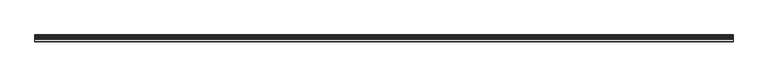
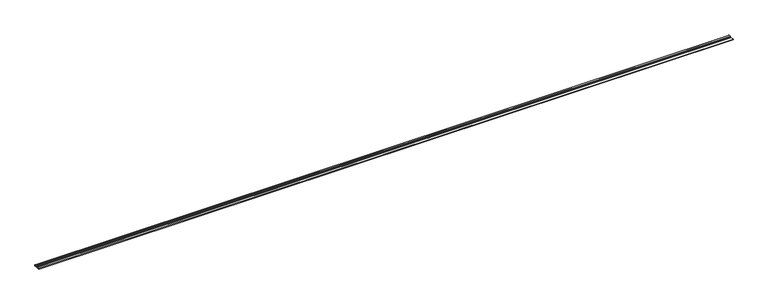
"""IFC4 building model written with IfcOpenShell, lengths in millimetres: slab geometry, ROSA GRES_G49 : Pieza G49_Aqua_Plomo_Anti-Slip."""

import ifcopenshell
import ifcopenshell.guid

model = None  # the IFC model being written
_history = None  # IfcOwnerHistory: only IFC2X3 demands one
_inside = {}  # id of a spatial element -> (the spatial element, [elements in it])
_under = {}  # id of a project, library or spatial element -> (it, [spatial elements below it])
_declared = {}  # id of a project -> (the project, [libraries it declares])
_typed = {}  # id of a type object -> (the type object, [elements of that type])
_made_of = {}  # id of a material, layer set ... -> (it, [elements and type objects made of it])


def new_model(schema):
    """Start an empty IFC model of exactly this schema.

    Asked for "IFC4X3", IfcOpenShell would pick the latest addendum, in which some entities
    have other attributes; the version numbers below select the first issue.
    IFC2X3 requires an IfcOwnerHistory on every rooted entity: one is made here for all.
    """
    global model, _history
    if schema == "IFC4X3":
        model = ifcopenshell.file(schema_version=(4, 3, 0, 0))
    else:
        model = ifcopenshell.file(schema=schema)
    _inside.clear()
    _under.clear()
    _declared.clear()
    _typed.clear()
    _made_of.clear()
    _history = None
    if model.schema == "IFC2X3":
        org = make("IfcOrganization", Name="unknown")
        user = make(
            "IfcPersonAndOrganization",
            ThePerson=make("IfcPerson", FamilyName="unknown"),
            TheOrganization=org,
        )
        app = make(
            "IfcApplication",
            ApplicationDeveloper=org,
            Version="unknown",
            ApplicationFullName="unknown",
            ApplicationIdentifier="unknown",
        )
        _history = make(
            "IfcOwnerHistory",
            OwningUser=user,
            OwningApplication=app,
            ChangeAction="ADDED",
            CreationDate=0,
        )
    return model


def make(cls, **values):
    """One entity of the class cls with the attributes given. An attribute that is None is left unset."""
    return model.create_entity(
        cls, **{name: value for name, value in values.items() if value is not None}
    )


def rooted(cls, **values):
    """An entity with a GlobalId (a new one), such as an element, a storey or a relation."""
    return make(cls, GlobalId=ifcopenshell.guid.new(), OwnerHistory=_history, **values)


def si_unit(unit_type, name, prefix=None):
    """IfcSIUnit, for example si_unit("LENGTHUNIT", "METRE", prefix="MILLI")."""
    return make("IfcSIUnit", UnitType=unit_type, Prefix=prefix, Name=name)


def assignment(units):
    """IfcUnitAssignment: the units of a project."""
    return None if units is None else make("IfcUnitAssignment", Units=units)


def point(xyz):
    """IfcCartesianPoint."""
    return None if xyz is None else make("IfcCartesianPoint", Coordinates=xyz)


def direction(xyz):
    """IfcDirection."""
    return None if xyz is None else make("IfcDirection", DirectionRatios=xyz)


def frame(location, z_axis=None, x_axis=None):
    """IfcAxis2Placement3D, a coordinate frame: its origin and axes. An axis left out is left unset."""
    return make(
        "IfcAxis2Placement3D",
        Location=point(location),
        Axis=direction(z_axis),
        RefDirection=direction(x_axis),
    )


def frame_2d(location, x_axis=None):
    """IfcAxis2Placement2D, a coordinate frame in the plane: its origin and x axis."""
    return make(
        "IfcAxis2Placement2D", Location=point(location), RefDirection=direction(x_axis)
    )


def origin():
    """The frame at (0, 0, 0) with its axes left unset."""
    return frame((0.0, 0.0, 0.0))


def place(relative_to, where):
    """IfcLocalPlacement: puts the frame where relative to a parent placement (None: the world)."""
    return make(
        "IfcLocalPlacement", PlacementRelTo=relative_to, RelativePlacement=where
    )


def context(
    kind, dimensions, precision=None, world=None, true_north=None, identifier=None
):
    """IfcGeometricRepresentationContext, for example the 3D "Model" context."""
    return make(
        "IfcGeometricRepresentationContext",
        ContextIdentifier=identifier,
        ContextType=kind,
        CoordinateSpaceDimension=dimensions,
        Precision=precision,
        WorldCoordinateSystem=world,
        TrueNorth=true_north,
    )


def project(units=None, contexts=None):
    """IfcProject with its units and contexts."""
    return rooted(
        "IfcProject",
        Name="project",
        RepresentationContexts=contexts,
        UnitsInContext=assignment(units),
    )


def spatial(cls, under=None, at=None, **own):
    """A site, building, storey or space (cls), placed at a placement, below another one or the project."""
    s = rooted(cls, ObjectPlacement=at, **own)
    if under is not None:
        _under.setdefault(under.id(), (under, []))[1].append(s)
    return s


def polyline(points):
    """IfcPolyline through the points."""
    return make("IfcPolyline", Points=[point(p) for p in points])


def circle_curve(where, radius):
    """IfcCircle in the frame where."""
    return make("IfcCircle", Position=where, Radius=radius)


def trimmed(basis, trim1, trim2, sense, master):
    """IfcTrimmedCurve: the piece of a basis curve between two trims."""
    return make(
        "IfcTrimmedCurve",
        BasisCurve=basis,
        Trim1=trim1,
        Trim2=trim2,
        SenseAgreement=sense,
        MasterRepresentation=master,
    )


def segment(curve, same_sense, transition):
    """IfcCompositeCurveSegment."""
    return make(
        "IfcCompositeCurveSegment",
        Transition=transition,
        SameSense=same_sense,
        ParentCurve=curve,
    )


def composite_curve(segments, self_intersect=None):
    """IfcCompositeCurve: segments joined end to end."""
    return make("IfcCompositeCurve", Segments=segments, SelfIntersect=self_intersect)


def outline(outer, holes=None, kind="AREA"):
    """IfcArbitraryClosedProfileDef: a profile drawn as a closed curve; with holes, ...WithVoids."""
    if holes is None:
        return make("IfcArbitraryClosedProfileDef", ProfileType=kind, OuterCurve=outer)
    return make(
        "IfcArbitraryProfileDefWithVoids",
        ProfileType=kind,
        OuterCurve=outer,
        InnerCurves=holes,
    )


def extrude(swept, where, along, depth):
    """IfcExtrudedAreaSolid: the profile swept, set in the frame where, extruded along a direction by depth."""
    return make(
        "IfcExtrudedAreaSolid",
        SweptArea=swept,
        Position=where,
        ExtrudedDirection=direction(along),
        Depth=depth,
    )


def shape(context_of_items, identifier, shape_type, items):
    """IfcShapeRepresentation: the items that make up one representation, for example the "Body"."""
    return make(
        "IfcShapeRepresentation",
        ContextOfItems=context_of_items,
        RepresentationIdentifier=identifier,
        RepresentationType=shape_type,
        Items=items,
    )


def source(mapping_origin, context_of_items, identifier, shape_type, items):
    """IfcRepresentationMap: a shape defined once, which mapped items show again and again."""
    return make(
        "IfcRepresentationMap",
        MappingOrigin=mapping_origin,
        MappedRepresentation=shape(context_of_items, identifier, shape_type, items),
    )


def transform(
    local_origin,
    x_axis=None,
    y_axis=None,
    z_axis=None,
    scale=None,
    scale2=None,
    scale3=None,
    uniform=True,
):
    """IfcCartesianTransformationOperator3D, or its non-uniform kind. x_axis, y_axis, z_axis: its Axis1, 2, 3."""
    if uniform:
        return make(
            "IfcCartesianTransformationOperator3D",
            Axis1=direction(x_axis),
            Axis2=direction(y_axis),
            LocalOrigin=point(local_origin),
            Scale=scale,
            Axis3=direction(z_axis),
        )
    return make(
        "IfcCartesianTransformationOperator3DnonUniform",
        Axis1=direction(x_axis),
        Axis2=direction(y_axis),
        LocalOrigin=point(local_origin),
        Scale=scale,
        Axis3=direction(z_axis),
        Scale2=scale2,
        Scale3=scale3,
    )


def mapped(mapping_source, mapping_target):
    """IfcMappedItem: shows the shape of a source again, moved by a transform."""
    return make(
        "IfcMappedItem", MappingSource=mapping_source, MappingTarget=mapping_target
    )


def made_of(thing, what):
    """Note that an element or type object is made of a material, layer set ...; save() writes the relation."""
    if what is not None:
        _made_of.setdefault(what.id(), (what, []))[1].append(thing)
    return thing


def element(
    cls,
    number,
    at=None,
    inside=None,
    cuts=None,
    type_object=None,
    material=None,
    context=None,
    identifier="Body",
    shape_type=None,
    held_by="IfcProductDefinitionShape",
    body=None,
    shapes=None,
    **own,
):
    """One element of the class cls, such as IfcWall. Its Tag is "e" and its number.

    at: its placement. inside: the storey or other place that contains it. cuts: it is an
    opening in that element (IfcRelVoidsElement). A single representation is given by context,
    identifier, shape_type and body (its items); several are given by shapes. held_by: the class
    of the entity that holds the representations. save() writes the other relations.
    """
    e = rooted(cls, Tag="e%d" % number, ObjectPlacement=at, **own)
    if body is not None:
        shapes = [shape(context, identifier, shape_type, body)]
    if shapes is not None:
        e.Representation = make(held_by, Representations=shapes)
    if inside is not None:
        _inside.setdefault(inside.id(), (inside, []))[1].append(e)
    if cuts is not None:
        rooted(
            "IfcRelVoidsElement", RelatingBuildingElement=cuts, RelatedOpeningElement=e
        )
    if type_object is not None:
        _typed.setdefault(type_object.id(), (type_object, []))[1].append(e)
    return made_of(e, material)


def aggregate(whole, parts):
    """IfcRelAggregates: a whole, such as a stair, and the parts it consists of."""
    return rooted("IfcRelAggregates", RelatingObject=whole, RelatedObjects=parts)


def save(model, path):
    """Write the relations noted so far, then the file.

    IfcRelAggregates (storeys below a building ...), IfcRelContainedInSpatialStructure (elements
    in a storey), IfcRelDefinesByType, IfcRelAssociatesMaterial and IfcRelDeclares: one each for
    every whole, place, type object, material and project.
    """
    for whole, parts in _under.values():
        aggregate(whole, parts)
    for where, things in _inside.values():
        rooted(
            "IfcRelContainedInSpatialStructure",
            RelatedElements=things,
            RelatingStructure=where,
        )
    for kind, things in _typed.values():
        rooted("IfcRelDefinesByType", RelatedObjects=things, RelatingType=kind)
    for what, things in _made_of.values():
        rooted("IfcRelAssociatesMaterial", RelatedObjects=things, RelatingMaterial=what)
    for by, libraries in _declared.values():
        rooted("IfcRelDeclares", RelatingContext=by, RelatedDefinitions=libraries)
    model.write(path)


def slab_0164f3d5(model_context):
    return source(origin(), model_context, "Body", "SweptSolid", [
        extrude(outline(composite_curve([segment(polyline([(-0.4959854, 174.3946403), (-15.4742511, 175.6138015)]), True, "CONTINUOUS"), segment(trimmed(circle_curve(frame_2d((-27.0041663, 174.9936892)), 11.5465789), [point((-15.4742511, 175.6138015))], [point((-38.2820268, 177.4702483))], True, "CARTESIAN"), True, "CONTINUOUS"), segment(polyline([(-38.2820268, 177.4702483), (-119.1037338, 184.0487594), (-117.9849268, 197.7941027), (-69.9836117, 193.8870189), (-69.5852402, 193.1051707)]), True, "CONTINUOUS"), segment(trimmed(circle_curve(frame_2d((-63.9188624, 195.2410459)), 6.0555595), [point((-69.5852402, 193.1051707))], [point((-64.4101321, 189.205447))], True, "CARTESIAN"), True, "CONTINUOUS"), segment(polyline([(-64.4101321, 189.205447), (-44.9243788, 187.6193973)]), True, "CONTINUOUS"), segment(trimmed(circle_curve(frame_2d((-44.6810926, 190.6083422)), 2.9988298), [point((-44.9243788, 187.6193973))], [point((-42.1786827, 188.9557911))], True, "CARTESIAN"), True, "CONTINUOUS"), segment(polyline([(-42.1786827, 188.9557911), (-41.0138307, 190.7196924), (-38.3959439, 195.0159662), (-34.9297931, 201.7687131), (-8.4761969, 199.6155199)]), True, "CONTINUOUS"), segment(trimmed(circle_curve(frame_2d((-9.287465, 189.648482)), 10.0), [point((-8.4761969, 199.6155199))], [point((0.6795727, 188.8372115))], False, "CARTESIAN"), True, "CONTINUOUS"), segment(polyline([(0.6795727, 188.8372115), (-0.4959854, 174.3946403)]), True, "CONTINUOUS")], self_intersect=False)), frame((0.0, 0.0, 0.0), z_axis=(1.0, 0.0, 0.0), x_axis=(0.0, 1.0, 0.0)), (0.0, 0.0, 1.0), 12000.25),
    ])


if __name__ == "__main__":
    model = new_model("IFC4")
    model_context = context("Model", 3, world=origin())
    ifc_project = project(units=[si_unit("LENGTHUNIT", "METRE", prefix="MILLI")], contexts=[model_context])
    site = spatial("IfcSite", under=ifc_project)
    building = spatial("IfcBuilding", under=site)
    placement = place(None, origin())
    slab_shape = slab_0164f3d5(model_context)
    element("IfcSlab", 1, ObjectType="ROSA GRES_G49 : Pieza G49_Aqua_Plomo_Anti-Slip", at=placement, inside=building, context=model_context, shape_type="MappedRepresentation", body=[
        mapped(slab_shape, transform((0.0, 0.0, 0.0), x_axis=(1.0, 0.0, 0.0), y_axis=(0.0, 1.0, 0.0), z_axis=(0.0, 0.0, 1.0))),
    ])
    save(model, "model.ifc")
